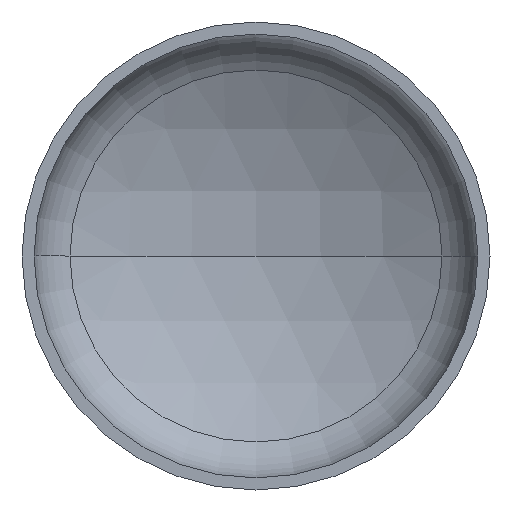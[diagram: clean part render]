
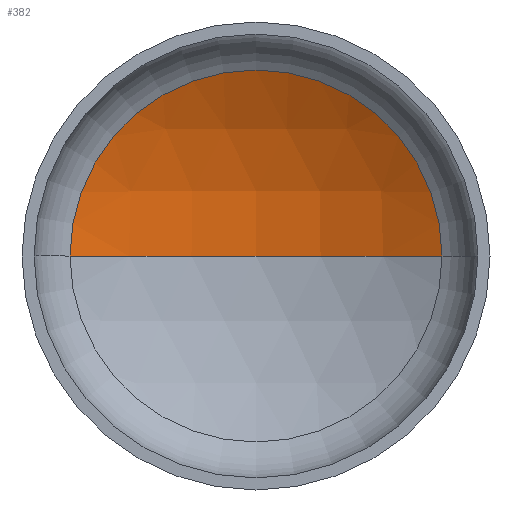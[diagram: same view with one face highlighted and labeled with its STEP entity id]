
A CAD part, front view. The second image highlights one B-rep face of the part: STEP entity #382.
In plain terms, the highlighted spherical face has radius 1520 mm.
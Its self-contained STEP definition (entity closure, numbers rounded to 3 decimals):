
#12 = AXIS2_PLACEMENT_3D ( 'NONE', #153, #331, #411 ) ;
#14 = AXIS2_PLACEMENT_3D ( 'NONE', #397, #261, #265 ) ;
#17 = AXIS2_PLACEMENT_3D ( 'NONE', #170, #171, #22 ) ;
#22 = DIRECTION ( 'NONE',  ( 1., 0., 0. ) ) ;
#31 = EDGE_LOOP ( 'NONE', ( #127, #126, #95 ) ) ;
#36 = VERTEX_POINT ( 'NONE', #253 ) ;
#95 = ORIENTED_EDGE ( 'NONE', *, *, #348, .T. ) ;
#99 = VERTEX_POINT ( 'NONE', #301 ) ;
#119 = VERTEX_POINT ( 'NONE', #300 ) ;
#126 = ORIENTED_EDGE ( 'NONE', *, *, #349, .T. ) ;
#127 = ORIENTED_EDGE ( 'NONE', *, *, #355, .F. ) ;
#152 = CARTESIAN_POINT ( 'NONE',  ( 0., -917.511, 0. ) ) ;
#153 = CARTESIAN_POINT ( 'NONE',  ( 0., -917.511, 0. ) ) ;
#170 = CARTESIAN_POINT ( 'NONE',  ( 0., 401.69, 0. ) ) ;
#171 = DIRECTION ( 'NONE',  ( 0., -1., 0. ) ) ;
#179 = DIRECTION ( 'NONE',  ( 0., 0., -1. ) ) ;
#183 = AXIS2_PLACEMENT_3D ( 'NONE', #152, #179, #246 ) ;
#189 = CIRCLE ( 'NONE', #14, 1520. ) ;
#243 = SPHERICAL_SURFACE ( 'NONE', #183, 1520. ) ;
#246 = DIRECTION ( 'NONE',  ( -1., 0., 0. ) ) ;
#253 = CARTESIAN_POINT ( 'NONE',  ( 0., 602.489, 0. ) ) ;
#261 = DIRECTION ( 'NONE',  ( 0., 0., -1. ) ) ;
#265 = DIRECTION ( 'NONE',  ( -1., 0., 0. ) ) ;
#300 = CARTESIAN_POINT ( 'NONE',  ( -755.057, 401.69, 0. ) ) ;
#301 = CARTESIAN_POINT ( 'NONE',  ( 755.057, 401.69, 0. ) ) ;
#302 = FACE_OUTER_BOUND ( 'NONE', #31, .T. ) ;
#331 = DIRECTION ( 'NONE',  ( 0., 0., 1. ) ) ;
#348 = EDGE_CURVE ( 'NONE', #99, #119, #386, .T. ) ;
#349 = EDGE_CURVE ( 'NONE', #36, #99, #189, .T. ) ;
#355 = EDGE_CURVE ( 'NONE', #36, #119, #378, .T. ) ;
#378 = CIRCLE ( 'NONE', #12, 1520. ) ;
#382 = ADVANCED_FACE ( 'NONE', ( #302 ), #243, .F. ) ;
#386 = CIRCLE ( 'NONE', #17, 755.057 ) ;
#397 = CARTESIAN_POINT ( 'NONE',  ( 0., -917.511, 0. ) ) ;
#411 = DIRECTION ( 'NONE',  ( 1., 0., 0. ) ) ;
